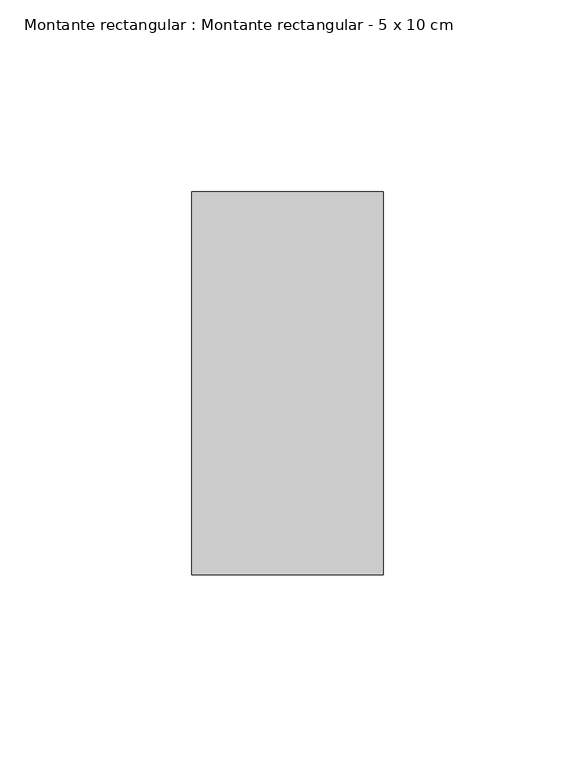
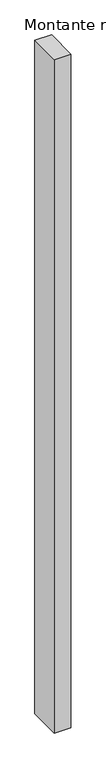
"""IFC4 building model written with IfcOpenShell, lengths in millimetres: member geometry, Montante rectangular : Montante rectangular - 5 x 10 cm."""

from ifc_helpers import new_model, si_unit, frame, origin, place, context, project, spatial, polyline, outline, extrude, source, transform, mapped, element, save


def montante_rectangular_montante_rectangular_5_x_10_cm_10b7b379(model_context):
    return source(origin(), model_context, "Body", "SweptSolid", [
        extrude(outline(polyline([(-50.0, 50.0), (0.0, 50.0), (0.0, -50.0), (-50.0, -50.0), (-50.0, 50.0)])), frame((0.0, 0.0, -2135.7061934), z_axis=(0.0, 0.0, 1.0), x_axis=(1.0, 0.0, 0.0)), (0.0, 0.0, 1.0), 2135.7061934),
    ])


if __name__ == "__main__":
    model = new_model("IFC4")
    model_context = context("Model", 3, world=origin())
    ifc_project = project(units=[si_unit("LENGTHUNIT", "METRE", prefix="MILLI")], contexts=[model_context])
    site = spatial("IfcSite", under=ifc_project)
    building = spatial("IfcBuilding", under=site)
    placement = place(None, origin())
    montante_rectangular_montante_rectangular_5_x_10_cm_shape = montante_rectangular_montante_rectangular_5_x_10_cm_10b7b379(model_context)
    element("IfcMember", 1, ObjectType="Montante rectangular : Montante rectangular - 5 x 10 cm", at=placement, inside=building, context=model_context, shape_type="MappedRepresentation", body=[
        mapped(montante_rectangular_montante_rectangular_5_x_10_cm_shape, transform((0.0, 0.0, 0.0), x_axis=(1.0, 0.0, 0.0), y_axis=(0.0, 1.0, 0.0), z_axis=(0.0, 0.0, 1.0))),
    ])
    save(model, "model.ifc")
